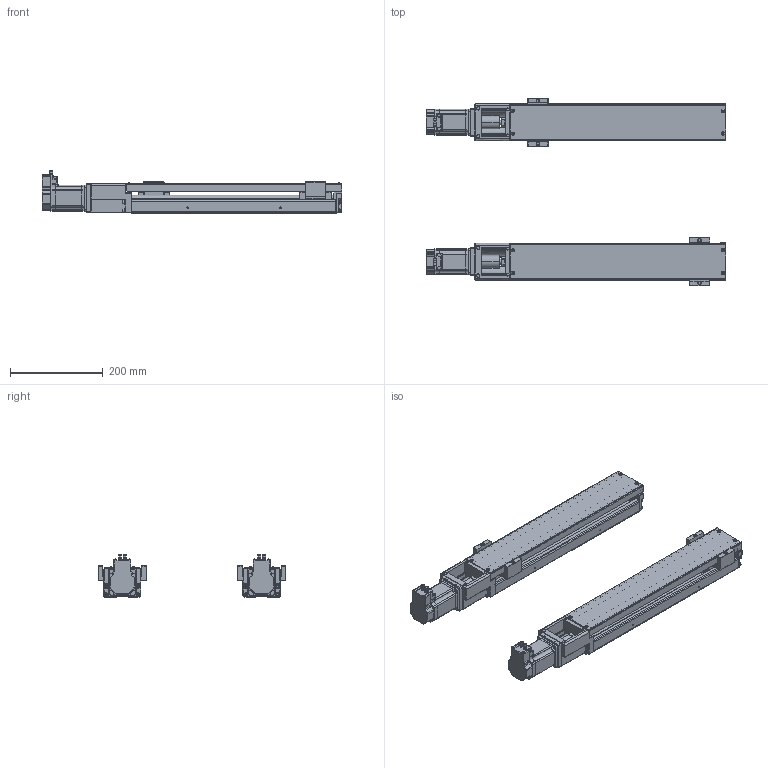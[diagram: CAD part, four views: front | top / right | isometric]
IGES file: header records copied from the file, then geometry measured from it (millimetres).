
Start section: IMSI TurboCAD v14.0
Global section: author: NULL; organization: NULL; date: 20111226.141519; units: millimetre
Bounding box: 645.01 x 404 x 91.47 mm (x, y, z)
Surface area: 822127.8 mm2 (no closed solid volume)
Topology: 0 solids, 0 shells, 4580 faces, 23149 edges, 23084 vertices
Faces by surface type: revolution 2580, extrusion 1840, bspline 160
